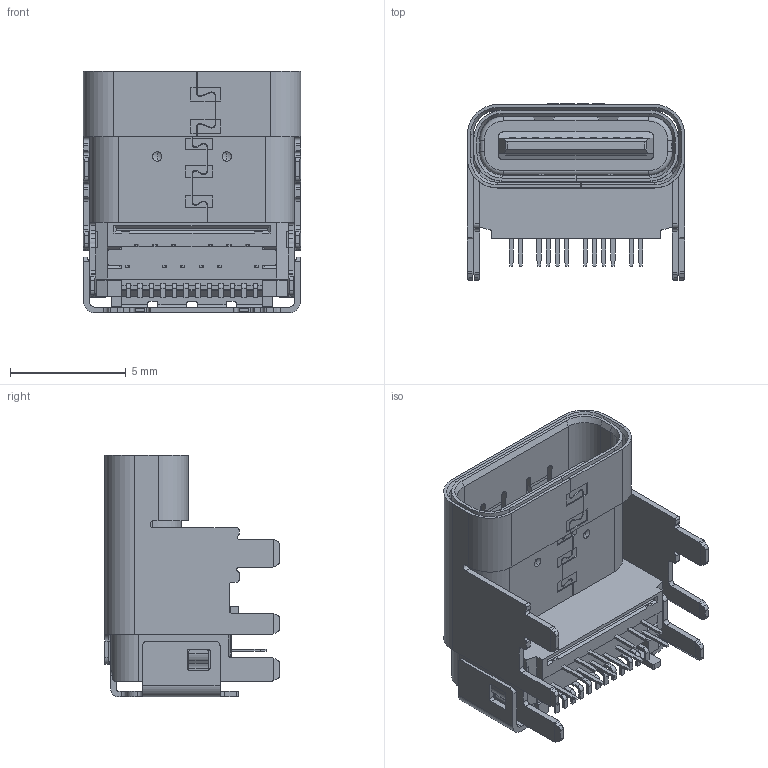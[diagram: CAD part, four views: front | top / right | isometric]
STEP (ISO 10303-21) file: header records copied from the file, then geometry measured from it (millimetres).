
FILE_DESCRIPTION (( 'STEP AP214' ), '1' );
FILE_NAME ('U5424-24PN2.2G10.47L.STEP', '2026-06-01T02:48:09', ( '' ), ( '' ), 'SwSTEP 2.0', 'SolidWorks 2024', '' );
FILE_SCHEMA (( 'AUTOMOTIVE_DESIGN' ));
Length unit declared in the file: millimetre
Products named in the file (5): U5424-24PN2.2G10.47L(2); S-NCR21-20X01; U5424-24PN2.2G10.47L; NARA1-AK5116; S-NARA1-10X11
Assembly tree (4 placements, depth 3):
  U5424-24PN2.2G10.47L
    U5424-24PN2.2G10.47L(2)
      S-NARA1-10X11
      S-NCR21-20X01
      NARA1-AK5116
Bounding box: 9.4 x 7.61 x 10.47 mm (x, y, z)
Volume: 266.1 mm3; surface area: 1157.7 mm2
Topology: 3 solids, 3 shells, 1465 faces, 4218 edges, 2765 vertices
Faces by surface type: plane 937, cylinder 467, bspline 41, cone 16, torus 4
Entity records: 49590 total; most frequent: CARTESIAN_POINT 10904, ORIENTED_EDGE 8404, DIRECTION 7736, EDGE_CURVE 4202, LINE 3120, VECTOR 3120, VERTEX_POINT 2765, AXIS2_PLACEMENT_3D 2308
